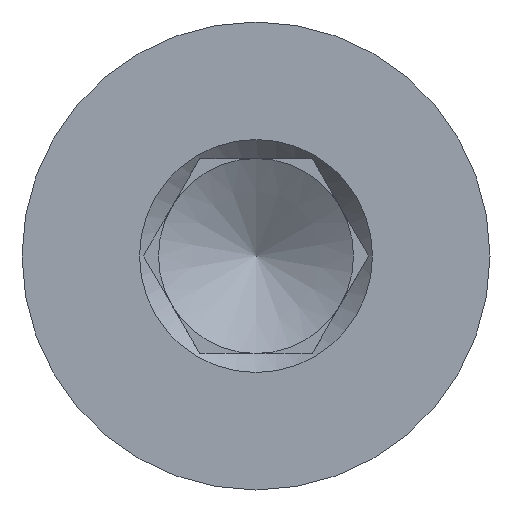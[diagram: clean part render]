
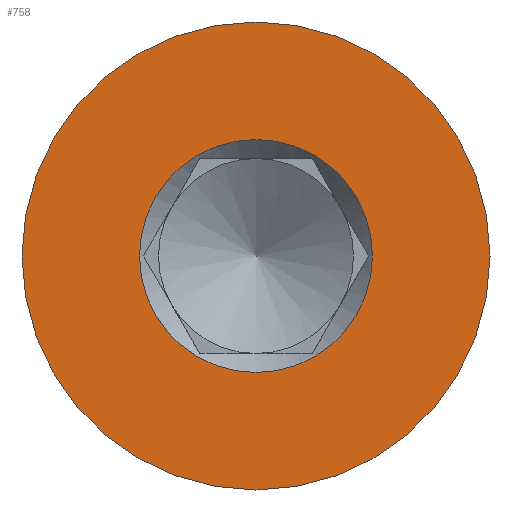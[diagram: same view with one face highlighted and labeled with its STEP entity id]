
A CAD part, left-side view. The second image highlights one B-rep face of the part: STEP entity #758.
In plain terms, the highlighted planar face has unit normal (-1, 0, 0).
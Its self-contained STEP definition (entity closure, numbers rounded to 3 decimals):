
#36 = CIRCLE ( 'NONE', #879, 12. ) ;
#128 = EDGE_CURVE ( 'NONE', #182, #182, #720, .T. ) ;
#182 = VERTEX_POINT ( 'NONE', #377 ) ;
#210 = DIRECTION ( 'NONE',  ( 0., 0., 1. ) ) ;
#241 = CARTESIAN_POINT ( 'NONE',  ( 0., 0., 0. ) ) ;
#291 = CARTESIAN_POINT ( 'NONE',  ( 0., 0., 12. ) ) ;
#295 = FACE_OUTER_BOUND ( 'NONE', #422, .T. ) ;
#344 = ORIENTED_EDGE ( 'NONE', *, *, #128, .T. ) ;
#377 = CARTESIAN_POINT ( 'NONE',  ( 0., 0., -5.974 ) ) ;
#406 = DIRECTION ( 'NONE',  ( 1., 0., 0. ) ) ;
#422 = EDGE_LOOP ( 'NONE', ( #522 ) ) ;
#425 = PLANE ( 'NONE',  #465 ) ;
#465 = AXIS2_PLACEMENT_3D ( 'NONE', #976, #817, #714 ) ;
#522 = ORIENTED_EDGE ( 'NONE', *, *, #525, .T. ) ;
#525 = EDGE_CURVE ( 'NONE', #941, #941, #36, .T. ) ;
#552 = DIRECTION ( 'NONE',  ( 0., 0., -1. ) ) ;
#613 = EDGE_LOOP ( 'NONE', ( #344 ) ) ;
#714 = DIRECTION ( 'NONE',  ( 0., 0., -1. ) ) ;
#720 = CIRCLE ( 'NONE', #935, 5.974 ) ;
#758 = ADVANCED_FACE ( 'NONE', ( #869, #295 ), #425, .F. ) ;
#767 = CARTESIAN_POINT ( 'NONE',  ( 0., 0., 0. ) ) ;
#817 = DIRECTION ( 'NONE',  ( 1., 0., 0. ) ) ;
#869 = FACE_BOUND ( 'NONE', #613, .T. ) ;
#879 = AXIS2_PLACEMENT_3D ( 'NONE', #767, #930, #210 ) ;
#930 = DIRECTION ( 'NONE',  ( -1., 0., 0. ) ) ;
#935 = AXIS2_PLACEMENT_3D ( 'NONE', #241, #406, #552 ) ;
#941 = VERTEX_POINT ( 'NONE', #291 ) ;
#976 = CARTESIAN_POINT ( 'NONE',  ( 0., 0., 0. ) ) ;
